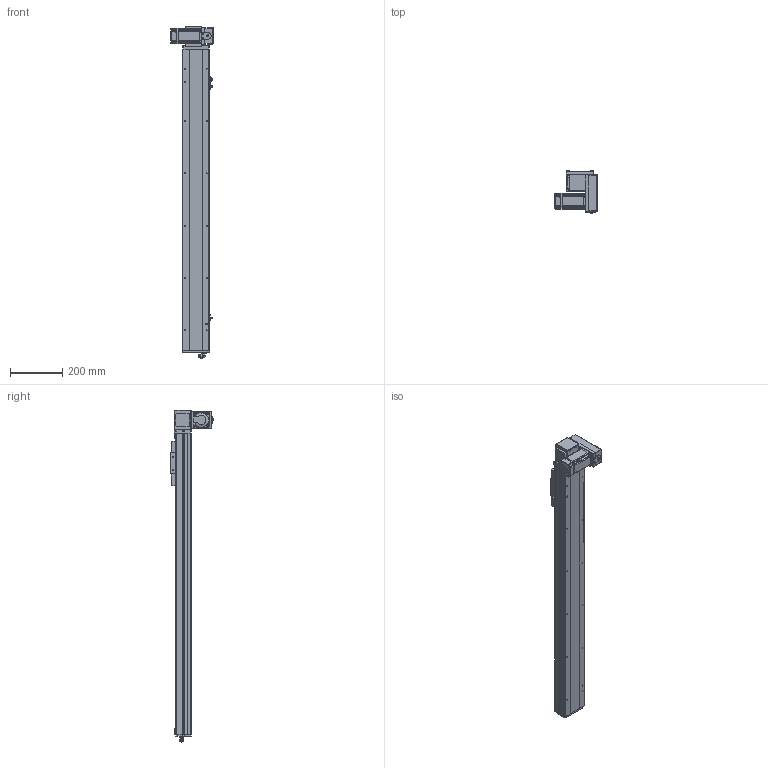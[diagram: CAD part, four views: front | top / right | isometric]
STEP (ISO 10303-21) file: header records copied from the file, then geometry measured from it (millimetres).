
FILE_DESCRIPTION (( 'STEP AP214' ), '1' );
FILE_NAME ('TPE10-L41.6-900-RD-P20-C4.STEP', '2023-03-13T02:02:01', ( '' ), ( '' ), 'SwSTEP 2.0', 'SolidWorks 2020', '' );
FILE_SCHEMA (( 'AUTOMOTIVE_DESIGN' ));
Length unit declared in the file: millimetre
Products named in the file (16): 葩璃 TPE10 賑雄殤 TPE10^TPE10-L41.6-RD-P20-C4; 葩璃 pm-t65-672^TPE10-L41.6-RD-P20-C4; 葩璃 TPF10 詩湍揤啣 TPF10 12^TPE10-L41.6-RD-P20-C4; 葩璃 TPE10-L-001 菁釱MZ-102A-01^TPE10-L41.6-RD-P20-C4; hex nuts, style 1-grades ab gb_GB_FASTENER_NUT_SNAB1 M3-N; 葩璃 侂狟400W^TPE10-L41.6-RD-P20-C4; 葩璃 TPT10-L-009 萇儂啣^TPE10-L41.6-RD-P20-C4_200W; hexagon socket head cap screws gb_GB_FASTENER_SCREWS_HSHCS M3X6-N; 葩璃 TPF10-L-008 耜醱啣^TPE10-L41.6-RD-P20-C4; 葩璃 TPE10-007 々湍釱MZ-169x88^TPE10-L41.6-RD-P20-C4; 葩璃 侂狟100W^TPE10-L41.6-RD-P20-C4; TPE10-L41.6-900-RD-P20-C4; hexagon head bolts-full thread gb_GB_FASTENER_BOLT_STBAB A M5X16-N; 葩璃 PL8-02^TPE10-L41.6-RD-P20-C4; 葩璃 TPE10-L-002 耜裔ZTMT-102B-04^TPE10-L41.6-RD-P20-C4; 葩璃 詩湍75^TPE10-L41.6-RD-P20-C4
Assembly tree (29 placements, depth 2):
  TPE10-L41.6-900-RD-P20-C4
    葩璃 TPE10-L-001 菁釱MZ-102A-01^TPE10-L41.6-RD-P20-C4
    葩璃 TPE10-L-002 耜裔ZTMT-102B-04^TPE10-L41.6-RD-P20-C4  x2
    葩璃 詩湍75^TPE10-L41.6-RD-P20-C4
    葩璃 TPE10-007 々湍釱MZ-169x88^TPE10-L41.6-RD-P20-C4
    葩璃 TPF10-L-008 耜醱啣^TPE10-L41.6-RD-P20-C4
    葩璃 TPE10 賑雄殤 TPE10^TPE10-L41.6-RD-P20-C4
    葩璃 TPF10 詩湍揤啣 TPF10 12^TPE10-L41.6-RD-P20-C4  x2
    葩璃 TPT10-L-009 萇儂啣^TPE10-L41.6-RD-P20-C4_200W
    葩璃 pm-t65-672^TPE10-L41.6-RD-P20-C4  x3
    葩璃 PL8-02^TPE10-L41.6-RD-P20-C4
    葩璃 侂狟100W^TPE10-L41.6-RD-P20-C4
    葩璃 侂狟400W^TPE10-L41.6-RD-P20-C4
    hexagon socket head cap screws gb_GB_FASTENER_SCREWS_HSHCS M3X6-N  x6
    hex nuts, style 1-grades ab gb_GB_FASTENER_NUT_SNAB1 M3-N  x6
    hexagon head bolts-full thread gb_GB_FASTENER_BOLT_STBAB A M5X16-N
Bounding box: 162.5 x 162.15 x 1268.35 mm (x, y, z)
Volume: 4397671.5 mm3; surface area: 1094622.4 mm2
Topology: 37 solids, 37 shells, 2029 faces, 5201 edges, 3304 vertices
Faces by surface type: plane 1106, cylinder 637, cone 216, bspline 42, torus 26, sphere 2
Entity records: 50712 total; most frequent: CARTESIAN_POINT 10486, DIRECTION 8144, ORIENTED_EDGE 7842, EDGE_CURVE 3921, AXIS2_PLACEMENT_3D 2860, VERTEX_POINT 2531, LINE 2424, VECTOR 2424
